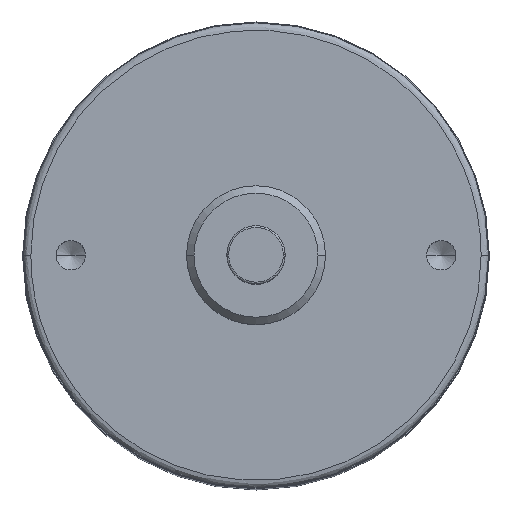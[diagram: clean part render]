
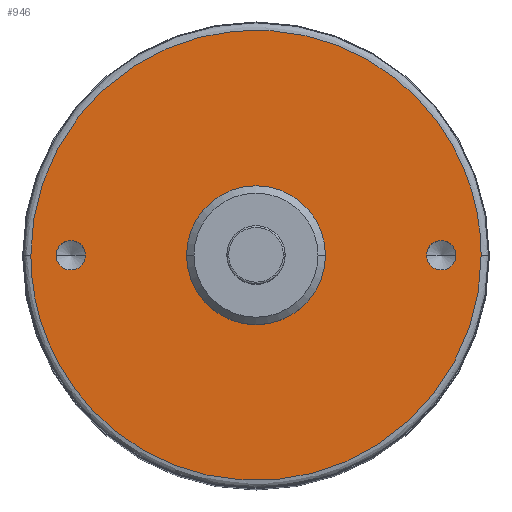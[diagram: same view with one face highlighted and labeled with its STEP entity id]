
A CAD part, top view. The second image highlights one B-rep face of the part: STEP entity #946.
In plain terms, the highlighted planar face has unit normal (0, 0, 1).
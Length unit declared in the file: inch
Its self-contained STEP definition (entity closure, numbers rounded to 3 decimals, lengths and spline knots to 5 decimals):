
#5 = DIRECTION ( 'NONE',  ( 1., 0., 0. ) ) ;
#10 = EDGE_CURVE ( 'NONE', #729, #413, #981, .T. ) ;
#42 = DIRECTION ( 'NONE',  ( -1., 0., 0. ) ) ;
#56 = ORIENTED_EDGE ( 'NONE', *, *, #856, .T. ) ;
#70 = ORIENTED_EDGE ( 'NONE', *, *, #10, .F. ) ;
#72 = EDGE_CURVE ( 'NONE', #786, #112, #844, .T. ) ;
#75 = CIRCLE ( 'NONE', #855, 0.375 ) ;
#110 = AXIS2_PLACEMENT_3D ( 'NONE', #1079, #1000, #5 ) ;
#112 = VERTEX_POINT ( 'NONE', #645 ) ;
#124 = FACE_OUTER_BOUND ( 'NONE', #808, .T. ) ;
#141 = DIRECTION ( 'NONE',  ( 0., 0., -1. ) ) ;
#170 = EDGE_CURVE ( 'NONE', #413, #729, #592, .T. ) ;
#173 = FACE_BOUND ( 'NONE', #872, .T. ) ;
#191 = CARTESIAN_POINT ( 'NONE',  ( 1.4, 4.303, 0.75 ) ) ;
#208 = CARTESIAN_POINT ( 'NONE',  ( 0.18437, 6.73426, 0.75 ) ) ;
#214 = CARTESIAN_POINT ( 'NONE',  ( 1.4, 4.303, 0.75 ) ) ;
#215 = EDGE_LOOP ( 'NONE', ( #332, #975 ) ) ;
#257 = AXIS2_PLACEMENT_3D ( 'NONE', #191, #464, #351 ) ;
#261 = CARTESIAN_POINT ( 'NONE',  ( 0.18437, 4.303, 0.75 ) ) ;
#274 = CARTESIAN_POINT ( 'NONE',  ( 0.4795, 4.303, 0.75 ) ) ;
#279 = CARTESIAN_POINT ( 'NONE',  ( 2.3205, 4.303, 0.75 ) ) ;
#293 = EDGE_LOOP ( 'NONE', ( #56, #898 ) ) ;
#295 = AXIS2_PLACEMENT_3D ( 'NONE', #373, #141, #790 ) ;
#305 = CARTESIAN_POINT ( 'NONE',  ( 2.61563, 1.87174, 0.75 ) ) ;
#330 = VERTEX_POINT ( 'NONE', #603 ) ;
#331 = CIRCLE ( 'NONE', #110, 0.0795 ) ;
#332 = ORIENTED_EDGE ( 'NONE', *, *, #443, .T. ) ;
#348 = AXIS2_PLACEMENT_3D ( 'NONE', #421, #509, #505 ) ;
#351 = DIRECTION ( 'NONE',  ( 1., 0., 0. ) ) ;
#369 = PLANE ( 'NONE',  #257 ) ;
#373 = CARTESIAN_POINT ( 'NONE',  ( 0.4, 4.303, 0.75 ) ) ;
#394 = DIRECTION ( 'NONE',  ( 0., 0., -1. ) ) ;
#400 = CARTESIAN_POINT ( 'NONE',  ( 0.3205, 4.303, 0.75 ) ) ;
#413 = VERTEX_POINT ( 'NONE', #261 ) ;
#421 = CARTESIAN_POINT ( 'NONE',  ( 2.4, 4.303, 0.75 ) ) ;
#432 = ORIENTED_EDGE ( 'NONE', *, *, #170, .F. ) ;
#433 = AXIS2_PLACEMENT_3D ( 'NONE', #809, #816, #1060 ) ;
#443 = EDGE_CURVE ( 'NONE', #564, #787, #862, .T. ) ;
#453 = DIRECTION ( 'NONE',  ( 1., 0., 0. ) ) ;
#464 = DIRECTION ( 'NONE',  ( 0., 0., 1. ) ) ;
#490 = ORIENTED_EDGE ( 'NONE', *, *, #731, .T. ) ;
#505 = DIRECTION ( 'NONE',  ( 1., 0., 0. ) ) ;
#509 = DIRECTION ( 'NONE',  ( 0., 0., -1. ) ) ;
#521 = FACE_BOUND ( 'NONE', #215, .T. ) ;
#525 = EDGE_CURVE ( 'NONE', #623, #330, #596, .T. ) ;
#543 = CARTESIAN_POINT ( 'NONE',  ( 2.61563, 6.73426, 0.75 ) ) ;
#564 = VERTEX_POINT ( 'NONE', #274 ) ;
#565 = AXIS2_PLACEMENT_3D ( 'NONE', #608, #956, #453 ) ;
#592 =( BOUNDED_CURVE ( )  B_SPLINE_CURVE ( 3, ( #958, #208, #543, #697 ),
 .UNSPECIFIED., .F., .F. ) 
 B_SPLINE_CURVE_WITH_KNOTS ( ( 4, 4 ),
 ( 0., 1. ),
 .UNSPECIFIED. ) 
 CURVE ( )  GEOMETRIC_REPRESENTATION_ITEM ( )  RATIONAL_B_SPLINE_CURVE ( ( 1., 0.333, 0.333, 1. ) ) 
 REPRESENTATION_ITEM ( '' )  );
#596 = CIRCLE ( 'NONE', #565, 0.0795 ) ;
#603 = CARTESIAN_POINT ( 'NONE',  ( 2.4795, 4.303, 0.75 ) ) ;
#608 = CARTESIAN_POINT ( 'NONE',  ( 2.4, 4.303, 0.75 ) ) ;
#623 = VERTEX_POINT ( 'NONE', #279 ) ;
#630 = CARTESIAN_POINT ( 'NONE',  ( 0.18437, 1.87174, 0.75 ) ) ;
#645 = CARTESIAN_POINT ( 'NONE',  ( 1.775, 4.303, 0.75 ) ) ;
#697 = CARTESIAN_POINT ( 'NONE',  ( 2.61563, 4.303, 0.75 ) ) ;
#713 = ORIENTED_EDGE ( 'NONE', *, *, #72, .T. ) ;
#729 = VERTEX_POINT ( 'NONE', #791 ) ;
#731 = EDGE_CURVE ( 'NONE', #112, #786, #75, .T. ) ;
#774 = FACE_BOUND ( 'NONE', #293, .T. ) ;
#786 = VERTEX_POINT ( 'NONE', #868 ) ;
#787 = VERTEX_POINT ( 'NONE', #400 ) ;
#790 = DIRECTION ( 'NONE',  ( 1., 0., 0. ) ) ;
#791 = CARTESIAN_POINT ( 'NONE',  ( 2.61563, 4.303, 0.75 ) ) ;
#806 = CIRCLE ( 'NONE', #348, 0.0795 ) ;
#808 = EDGE_LOOP ( 'NONE', ( #432, #70 ) ) ;
#809 = CARTESIAN_POINT ( 'NONE',  ( 1.4, 4.303, 0.75 ) ) ;
#816 = DIRECTION ( 'NONE',  ( 0., 0., -1. ) ) ;
#844 = CIRCLE ( 'NONE', #433, 0.375 ) ;
#852 = EDGE_CURVE ( 'NONE', #787, #564, #331, .T. ) ;
#855 = AXIS2_PLACEMENT_3D ( 'NONE', #214, #394, #42 ) ;
#856 = EDGE_CURVE ( 'NONE', #330, #623, #806, .T. ) ;
#862 = CIRCLE ( 'NONE', #295, 0.0795 ) ;
#868 = CARTESIAN_POINT ( 'NONE',  ( 1.025, 4.303, 0.75 ) ) ;
#872 = EDGE_LOOP ( 'NONE', ( #713, #490 ) ) ;
#898 = ORIENTED_EDGE ( 'NONE', *, *, #525, .T. ) ;
#946 = ADVANCED_FACE ( 'NONE', ( #173, #774, #521, #124 ), #369, .T. ) ;
#956 = DIRECTION ( 'NONE',  ( 0., 0., -1. ) ) ;
#958 = CARTESIAN_POINT ( 'NONE',  ( 0.18437, 4.303, 0.75 ) ) ;
#972 = CARTESIAN_POINT ( 'NONE',  ( 0.18437, 4.303, 0.75 ) ) ;
#975 = ORIENTED_EDGE ( 'NONE', *, *, #852, .T. ) ;
#981 =( BOUNDED_CURVE ( )  B_SPLINE_CURVE ( 3, ( #1062, #305, #630, #972 ),
 .UNSPECIFIED., .F., .T. ) 
 B_SPLINE_CURVE_WITH_KNOTS ( ( 4, 4 ),
 ( 0., 1. ),
 .UNSPECIFIED. ) 
 CURVE ( )  GEOMETRIC_REPRESENTATION_ITEM ( )  RATIONAL_B_SPLINE_CURVE ( ( 1., 0.333, 0.333, 1. ) ) 
 REPRESENTATION_ITEM ( '' )  );
#1000 = DIRECTION ( 'NONE',  ( 0., 0., -1. ) ) ;
#1060 = DIRECTION ( 'NONE',  ( -1., 0., 0. ) ) ;
#1062 = CARTESIAN_POINT ( 'NONE',  ( 2.61563, 4.303, 0.75 ) ) ;
#1079 = CARTESIAN_POINT ( 'NONE',  ( 0.4, 4.303, 0.75 ) ) ;
